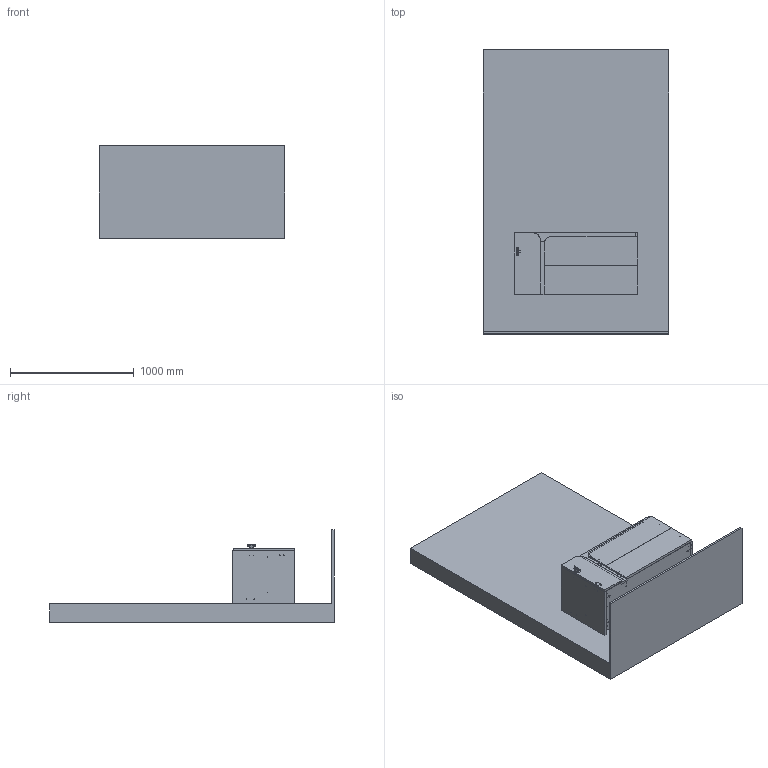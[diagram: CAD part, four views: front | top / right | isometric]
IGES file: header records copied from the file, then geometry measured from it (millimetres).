
Global section: file name: 3D Dosyası (igs),; native system: Autodesk Inventor 2024; preprocessor: unknown; author: pc19; date: 20250627.085932; units: millimetre
Bounding box: 1500 x 2300 x 750 mm (x, y, z)
Volume: 570064132.7 mm3; surface area: 15065489.2 mm2
Topology: 41 solids, 46 shells, 2928 faces, 7559 edges, 4751 vertices
Faces by surface type: bspline 2928
